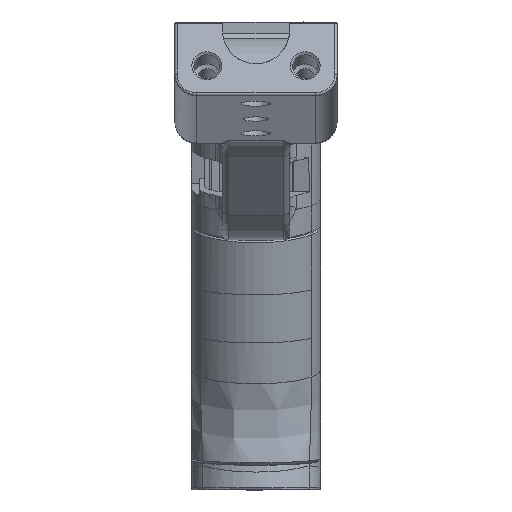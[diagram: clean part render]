
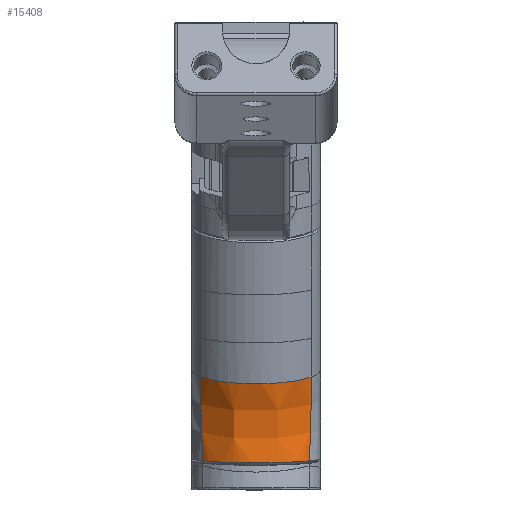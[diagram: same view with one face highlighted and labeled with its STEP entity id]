
A CAD part, front view. The second image highlights one B-rep face of the part: STEP entity #15408.
In plain terms, the highlighted free-form (B-spline) face has degree [3, 3] with [4, 4] control points.
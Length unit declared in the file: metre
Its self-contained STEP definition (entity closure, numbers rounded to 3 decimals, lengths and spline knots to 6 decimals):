
#292=(
BOUNDED_SURFACE()
B_SPLINE_SURFACE(3,3,((#26799,#26800,#26801,#26802),(#26803,#26804,#26805,
#26806),(#26807,#26808,#26809,#26810),(#26811,#26812,#26813,#26814)),
 .UNSPECIFIED.,.F.,.F.,.F.)
B_SPLINE_SURFACE_WITH_KNOTS((4,4),(4,4),(0.204479,0.795593),
(0.350245,0.592258),.PIECEWISE_BEZIER_KNOTS.)
GEOMETRIC_REPRESENTATION_ITEM()
RATIONAL_B_SPLINE_SURFACE(((0.675,0.675,0.675,
0.675),(0.442,0.442,0.442,
0.442),(0.442,0.442,0.442,
0.442),(0.675,0.675,0.675,
0.675)))
REPRESENTATION_ITEM('')
SURFACE()
);
#3125=CIRCLE('',#16778,0.016);
#5564=ORIENTED_EDGE('',*,*,#9450,.T.);
#5565=ORIENTED_EDGE('',*,*,#9428,.T.);
#5566=ORIENTED_EDGE('',*,*,#9459,.T.);
#5567=ORIENTED_EDGE('',*,*,#9461,.F.);
#9428=EDGE_CURVE('',#11438,#11439,#12263,.F.);
#9450=EDGE_CURVE('',#11015,#11438,#12268,.T.);
#9459=EDGE_CURVE('',#11439,#11036,#12271,.T.);
#9461=EDGE_CURVE('',#11015,#11036,#3125,.F.);
#11015=VERTEX_POINT('',#23677);
#11036=VERTEX_POINT('',#23725);
#11438=VERTEX_POINT('',#26569);
#11439=VERTEX_POINT('',#26586);
#12263=B_SPLINE_CURVE_WITH_KNOTS('',3,(#26650,#26651,#26652,#26653,#26654,
#26655,#26656,#26657,#26658,#26659,#26660),.UNSPECIFIED.,.F.,.F.,(4,1,1,
1,1,1,1,1,4),(0.,0.125,0.25,0.375,0.5,0.625,0.75,0.875,1.),
 .UNSPECIFIED.);
#12268=B_SPLINE_CURVE_WITH_KNOTS('',3,(#26751,#26752,#26753,#26754,#26755),
 .UNSPECIFIED.,.F.,.F.,(4,1,4),(0.,0.009683,
0.019367),.UNSPECIFIED.);
#12271=B_SPLINE_CURVE_WITH_KNOTS('',3,(#26790,#26791,#26792,#26793,#26794),
 .UNSPECIFIED.,.F.,.F.,(4,1,4),(0.001149,0.010806,0.020463),
 .UNSPECIFIED.);
#13046=EDGE_LOOP('',(#5564,#5565,#5566,#5567));
#14140=FACE_BOUND('',#13046,.T.);
#15408=ADVANCED_FACE('',(#14140),#292,.F.);
#16778=AXIS2_PLACEMENT_3D('',#26815,#19675,#19676);
#19675=DIRECTION('',(0.,0.257,-0.966));
#19676=DIRECTION('',(0.,0.966,0.257));
#23677=CARTESIAN_POINT('',(-0.01258,0.028592,-0.04712));
#23725=CARTESIAN_POINT('',(0.012579,0.028592,-0.04712));
#26569=CARTESIAN_POINT('',(-0.012148,0.030477,-0.06622));
#26586=CARTESIAN_POINT('',(0.012148,0.030477,-0.066221));
#26650=CARTESIAN_POINT('',(0.012148,0.030477,-0.066221));
#26651=CARTESIAN_POINT('',(0.01138,0.02962,-0.066293));
#26652=CARTESIAN_POINT('',(0.009691,0.028107,-0.066421));
#26653=CARTESIAN_POINT('',(0.00668,0.026394,-0.066566));
#26654=CARTESIAN_POINT('',(0.00343,0.02536,-0.066655));
#26655=CARTESIAN_POINT('',(0.000001,0.025004,-0.066685));
#26656=CARTESIAN_POINT('',(-0.003424,0.025359,-0.066655));
#26657=CARTESIAN_POINT('',(-0.006681,0.026394,-0.066566));
#26658=CARTESIAN_POINT('',(-0.009691,0.028107,-0.066421));
#26659=CARTESIAN_POINT('',(-0.01138,0.02962,-0.066293));
#26660=CARTESIAN_POINT('',(-0.012148,0.030477,-0.066221));
#26751=CARTESIAN_POINT('',(-0.012579,0.028592,-0.04712));
#26752=CARTESIAN_POINT('',(-0.012601,0.02959,-0.050189));
#26753=CARTESIAN_POINT('',(-0.012557,0.030913,-0.056564));
#26754=CARTESIAN_POINT('',(-0.01233,0.030853,-0.063022));
#26755=CARTESIAN_POINT('',(-0.012148,0.030477,-0.06622));
#26790=CARTESIAN_POINT('',(0.012148,0.030477,-0.066221));
#26791=CARTESIAN_POINT('',(0.01233,0.030853,-0.063022));
#26792=CARTESIAN_POINT('',(0.012558,0.030912,-0.05655));
#26793=CARTESIAN_POINT('',(0.012601,0.029587,-0.050181));
#26794=CARTESIAN_POINT('',(0.012579,0.028592,-0.04712));
#26799=CARTESIAN_POINT('',(-0.014017,0.030691,-0.04656));
#26800=CARTESIAN_POINT('',(-0.014017,0.03273,-0.053027));
#26801=CARTESIAN_POINT('',(-0.014017,0.033522,-0.059885));
#26802=CARTESIAN_POINT('',(-0.014017,0.03301,-0.066646));
#26803=CARTESIAN_POINT('',(-0.007134,0.018609,-0.049779));
#26804=CARTESIAN_POINT('',(-0.007134,0.020648,-0.056246));
#26805=CARTESIAN_POINT('',(-0.007134,0.021439,-0.063104));
#26806=CARTESIAN_POINT('',(-0.007134,0.020928,-0.069865));
#26807=CARTESIAN_POINT('',(0.007139,0.018611,-0.049779));
#26808=CARTESIAN_POINT('',(0.007139,0.02065,-0.056246));
#26809=CARTESIAN_POINT('',(0.007139,0.021442,-0.063103));
#26810=CARTESIAN_POINT('',(0.007139,0.02093,-0.069865));
#26811=CARTESIAN_POINT('',(0.014018,0.030694,-0.04656));
#26812=CARTESIAN_POINT('',(0.014018,0.032733,-0.053026));
#26813=CARTESIAN_POINT('',(0.014018,0.033525,-0.059884));
#26814=CARTESIAN_POINT('',(0.014018,0.033013,-0.066645));
#26815=CARTESIAN_POINT('',(0.,0.038147,-0.044574));
